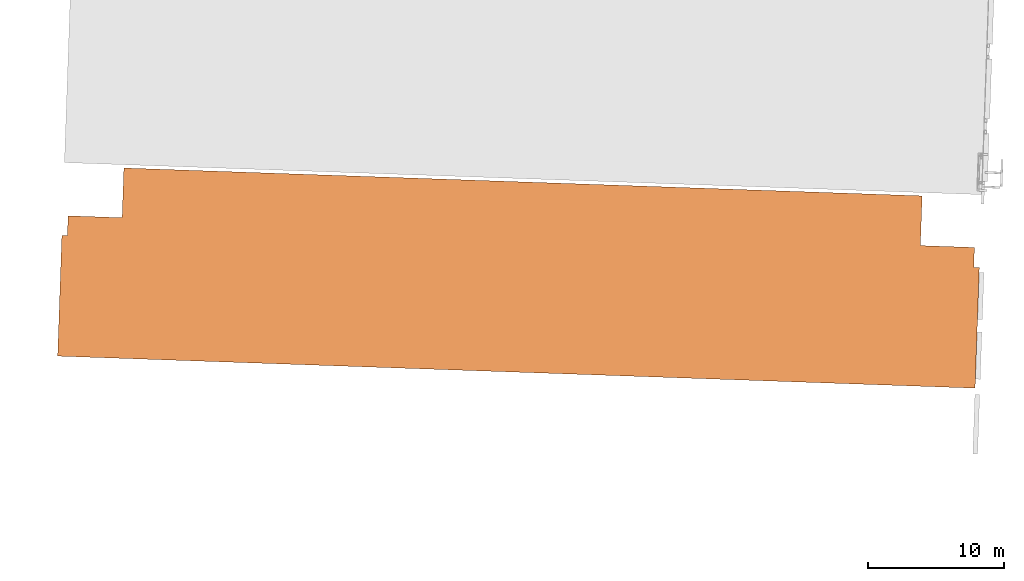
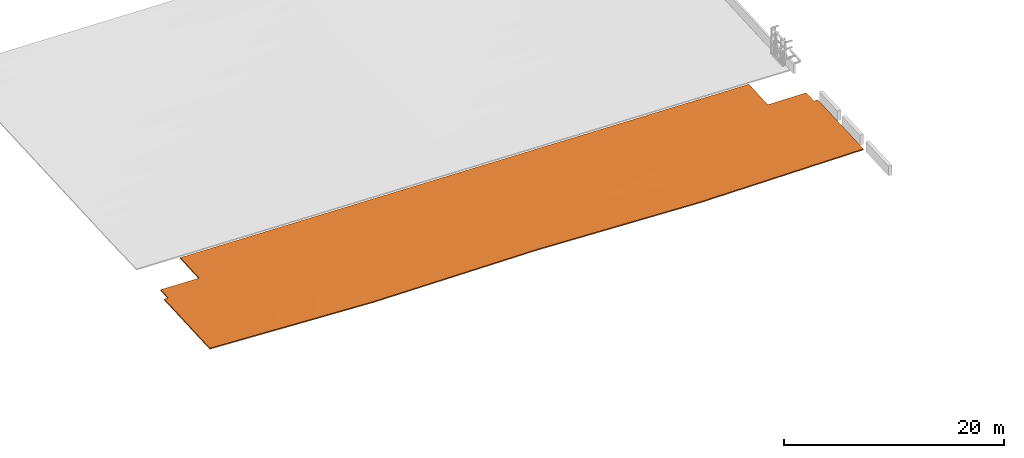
# One storey, part 8 of 8: 1 proxy.
"""IFC2X3 building model written with IfcOpenShell, lengths in feet."""

from ifc_helpers import new_model, entity, si_unit, converted_unit, derived_unit, direction, frame, origin, place, context, subcontext, project, spatial, faceted_brep, source, transform, mapped, material, type_object, type_shapes, element, save


model = new_model("IFC2X3")

# Units and contexts
model_context = context("Model", 3, precision=0.0001, world=origin(), true_north=direction((0.999390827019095, 0.0348994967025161)))
body_context = subcontext(model_context, "Body", "Model", "MODEL_VIEW")
ifc_project = project(units=[converted_unit("LENGTHUNIT", "FOOT", entity("IfcRatioMeasure", 0.3048), si_unit("LENGTHUNIT", "METRE"), dimensions=[1, 0, 0, 0, 0, 0, 0]), converted_unit("AREAUNIT", "SQUARE FOOT", entity("IfcRatioMeasure", 0.09290304), si_unit("AREAUNIT", "SQUARE_METRE"), dimensions=[2, 0, 0, 0, 0, 0, 0]), converted_unit("VOLUMEUNIT", "CUBIC FOOT", entity("IfcRatioMeasure", 0.028316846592), si_unit("VOLUMEUNIT", "CUBIC_METRE"), dimensions=[3, 0, 0, 0, 0, 0, 0]), converted_unit("PLANEANGLEUNIT", "DEGREE", entity("IfcRatioMeasure", 0.0174532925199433), si_unit("PLANEANGLEUNIT", "RADIAN"), dimensions=[0, 0, 0, 0, 0, 0, 0]), si_unit("MASSUNIT", "GRAM", prefix="KILO"), si_unit("TIMEUNIT", "SECOND"), si_unit("FREQUENCYUNIT", "HERTZ"), si_unit("THERMODYNAMICTEMPERATUREUNIT", "DEGREE_CELSIUS"), derived_unit("THERMALTRANSMITTANCEUNIT", [(si_unit("MASSUNIT", "GRAM", prefix="KILO"), 1), (si_unit("THERMODYNAMICTEMPERATUREUNIT", "KELVIN"), -1), (si_unit("TIMEUNIT", "SECOND"), -3)]), derived_unit("VOLUMETRICFLOWRATEUNIT", [(si_unit("LENGTHUNIT", "METRE"), 3), (si_unit("TIMEUNIT", "SECOND"), -1)]), si_unit("ELECTRICCURRENTUNIT", "AMPERE"), si_unit("ELECTRICVOLTAGEUNIT", "VOLT"), si_unit("POWERUNIT", "WATT"), si_unit("FORCEUNIT", "NEWTON"), si_unit("ILLUMINANCEUNIT", "LUX"), si_unit("LUMINOUSFLUXUNIT", "LUMEN"), si_unit("LUMINOUSINTENSITYUNIT", "CANDELA"), derived_unit("USERDEFINED", [(si_unit("MASSUNIT", "GRAM", prefix="KILO"), -1), (si_unit("LENGTHUNIT", "METRE"), -2), (si_unit("TIMEUNIT", "SECOND"), 3), (si_unit("LUMINOUSFLUXUNIT", "LUMEN"), 1)]), derived_unit("LINEARVELOCITYUNIT", [(si_unit("LENGTHUNIT", "METRE"), 1), (si_unit("TIMEUNIT", "SECOND"), -1)]), si_unit("PRESSUREUNIT", "PASCAL"), derived_unit("USERDEFINED", [(si_unit("LENGTHUNIT", "METRE"), -2), (si_unit("MASSUNIT", "GRAM", prefix="KILO"), 1), (si_unit("TIMEUNIT", "SECOND"), -2)])], contexts=[model_context])

# Site, building, storey
site_placement = place(None, frame((892.518771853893, 322.38689265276, 0.00393700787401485), z_axis=(0.0, 0.0, 1.0), x_axis=(0.0348994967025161, 0.999390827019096, 0.0)))
site = spatial("IfcSite", under=ifc_project, at=site_placement, Name="Default", CompositionType="ELEMENT")
building_placement = place(site_placement, origin())
building = spatial("IfcBuilding", under=site, at=building_placement, CompositionType="ELEMENT")
storey_placement = place(building_placement, frame((0.0, 0.0, 607.0)))
storey = spatial("IfcBuildingStorey", under=building, at=storey_placement, Name="Existing Garage - Roof Level", CompositionType="ELEMENT", Elevation=607.0)

# Proxy
ifc_material = material(Name="Conc Slab")
building_element_proxy_type = type_object("IfcBuildingElementProxyType", Name="URMC Exist Garage A15-G18 2nd Floor", PredefinedType="NOTDEFINED", material=ifc_material)
shared_shape = source(origin(), body_context, "Body", "Brep", [
    faceted_brep([(45.7500000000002, -165.0, -0.416666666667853), (45.0, -165.0, -0.416666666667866), (42.0623199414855, -165.0, -0.493046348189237), (37.5, -165.0, -0.611666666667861), (32.9376800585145, -165.0, -0.730286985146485), (30.0, -165.0, -0.806666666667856), (21.6913902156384, -165.0, -1.02269052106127), (13.3827804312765, -165.0, -1.23871437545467), (0.0, -165.0, -1.58666666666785), (0.0, -165.0, -1.17000000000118), (13.3827804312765, -165.0, -0.822047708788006), (21.6913902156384, -165.0, -0.606023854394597), (30.0, -165.0, -0.390000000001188), (37.4999999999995, -165.0, -0.195000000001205), (45.0, -165.0, 0.0), (45.7500000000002, -165.0, 0.0), (29.0, -220.0, -0.416666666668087), (29.0, -220.0, 0.0), (20.6913898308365, -220.0, 0.0), (12.3827796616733, -220.0, 0.0), (0.0, -220.0, 0.0), (0.0, -220.0, -0.416666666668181), (12.3827796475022, -220.0, -0.416666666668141), (20.691389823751, -220.0, -0.416666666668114), (30.0, -208.845032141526, -0.0790988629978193), (16.5370843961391, -203.597118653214, -0.220703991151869), (29.2499999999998, -219.0, -0.00744545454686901), (29.4999999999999, -219.0, -0.00732727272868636), (29.75, -219.0, -0.0072090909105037), (30.0, -219.0, -0.00709090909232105), (30.4212962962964, -219.0, -0.0068917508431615), (30.8425925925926, -219.0, -0.00669259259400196), (30.0, -205.5, -0.102818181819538), (29.0, -219.0, -0.00756363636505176), (29.0, -219.75, -0.00189090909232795), (29.0, -219.5, -0.00378181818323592), (29.0, -219.25, -0.00567272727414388), (20.7948761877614, -191.005404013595, -0.331768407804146), (30.0, -198.690064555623, -0.151106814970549), (10.0378252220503, -178.448943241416, -0.686738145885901), (20.1935517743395, -178.613535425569, -0.485326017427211), (0.0, -209.845032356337, -0.21602385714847), (0.0, -199.690064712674, -0.432047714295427), (9.71466791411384, -192.499997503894, -0.458709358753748), (0.0, -185.309935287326, -0.737952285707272), (7.77446293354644, -204.767549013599, -0.268053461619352), (0.0, -175.154967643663, -0.953976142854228), (30.0, -192.0, -0.198545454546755), (30.0, -181.845032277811, -0.270553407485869), (30.0, -178.5, -0.294272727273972), (33.7916666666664, -211.777777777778, -0.0435653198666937), (33.7916666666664, -213.222222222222, -0.0359119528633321), (31.2638888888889, -219.0, -0.00649343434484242), (31.6851851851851, -219.0, -0.00629427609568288), (32.1064814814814, -219.0, -0.00609511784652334), (32.5277777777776, -219.0, -0.0058959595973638), (32.9490740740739, -219.0, -0.00569680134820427), (33.3703703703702, -219.0, -0.00549764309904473), (33.7916666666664, -219.0, -0.0052984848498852), (33.7916666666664, -217.555555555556, -0.0129518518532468), (33.7916666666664, -216.111111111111, -0.0206052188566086), (33.7916666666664, -214.666666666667, -0.0282585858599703), (38.4839962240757, -175.781774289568, -0.136205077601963), (34.4211543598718, -180.619101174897, -0.196940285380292), (38.1504626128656, -186.798467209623, -0.107505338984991), (45.0, -177.276017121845, 0.0), (34.313381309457, -191.629013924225, -0.143326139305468), (38.1504626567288, -196.459562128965, -0.0762230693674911), (33.7916666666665, -206.0, -0.0741787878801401), (35.0370370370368, -206.0, -0.0659367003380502), (33.7916666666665, -207.444444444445, -0.0665254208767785), (33.7916666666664, -210.333333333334, -0.0512186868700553), (33.7916666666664, -208.888888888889, -0.058872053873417), (45.0, -191.638008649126, 0.0), (43.7546296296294, -206.0, -0.00824208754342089), (45.0, -206.0, 0.0), (42.5092592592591, -206.0, -0.0164841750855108), (41.2638888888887, -206.0, -0.0247262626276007), (36.2824074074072, -206.0, -0.0576946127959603), (37.5277777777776, -206.0, -0.0494525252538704), (38.7731481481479, -206.0, -0.0412104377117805), (40.0185185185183, -206.0, -0.0329683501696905), (45.7500000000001, -206.0, 0.0), (45.7500000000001, -206.0, -0.416666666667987), (45.0, -206.0, -0.416666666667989), (45.0, -191.638008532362, -0.416666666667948), (45.0, -177.276017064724, -0.416666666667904), (33.7916666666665, -207.444444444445, -0.483192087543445), (33.7916666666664, -208.888888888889, -0.475538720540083), (33.7916666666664, -210.333333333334, -0.467885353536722), (33.7916666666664, -211.777777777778, -0.46023198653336), (30.0, -205.499999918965, -0.519484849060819), (33.7916666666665, -206.0, -0.490845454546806), (37.0103240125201, -176.044531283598, -0.582683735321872), (33.8430920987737, -184.011589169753, -0.606475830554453), (30.0, -178.500000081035, -0.710939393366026), (34.7918977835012, -194.653484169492, -0.538980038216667), (30.0, -198.690064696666, -0.567773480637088), (30.0, -192.0, -0.615212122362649), (40.0185185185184, -206.0, -0.449635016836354), (38.773148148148, -206.0, -0.457877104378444), (37.5277777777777, -206.0, -0.466119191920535), (36.2824074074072, -206.0, -0.474361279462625), (39.3958345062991, -196.218239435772, -0.479670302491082), (42.5092592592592, -206.0, -0.433150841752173), (41.2638888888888, -206.0, -0.441392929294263), (38.1504606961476, -186.798464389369, -0.524172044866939), (30.0, -181.845032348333, -0.687220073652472), (30.8425925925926, -219.0, -0.423359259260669), (43.7546296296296, -206.0, -0.424908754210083), (40.93720002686, -179.294944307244, -0.494844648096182), (35.0370370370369, -206.0, -0.482603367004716), (33.7916666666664, -214.666666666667, -0.444925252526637), (33.7916666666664, -216.111111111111, -0.437271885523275), (33.7916666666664, -217.555555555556, -0.429618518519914), (33.7916666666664, -219.0, -0.421965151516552), (33.3703703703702, -219.0, -0.422164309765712), (32.9490740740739, -219.0, -0.422363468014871), (32.5277777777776, -219.0, -0.422562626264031), (32.1064814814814, -219.0, -0.42276178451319), (31.6851851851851, -219.0, -0.42296094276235), (31.2638888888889, -219.0, -0.423160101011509), (33.7916666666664, -213.222222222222, -0.452578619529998), (30.4212962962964, -219.0, -0.423558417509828), (30.0, -219.0, -0.423757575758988), (29.75, -219.0, -0.423875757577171), (29.4999999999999, -219.0, -0.423993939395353), (29.2499999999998, -219.0, -0.424112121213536), (29.0, -219.0, -0.424230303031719), (30.0, -208.845032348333, -0.495765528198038), (0.0, -185.309935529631, -1.15461894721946), (9.71466872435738, -192.499996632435, -0.875376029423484), (0.0, -199.690064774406, -0.848714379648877), (10.0378253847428, -178.44894299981, -1.10340481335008), (29.0, -219.5, -0.420448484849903), (29.0, -219.75, -0.418557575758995), (29.0, -219.25, -0.422339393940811), (16.5370867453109, -203.597117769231, -0.637370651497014), (7.77446308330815, -204.767549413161, -0.684720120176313), (0.0, -209.845032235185, -0.632690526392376), (20.7948767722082, -191.005405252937, -0.748435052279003), (20.1935519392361, -178.613536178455, -0.901992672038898), (0.0, -175.154967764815, -1.37064280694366)], [[[0, 1, 2, 3, 4, 5, 6, 7, 8, 9, 10, 11, 12, 13, 14, 15]], [[16, 17, 18, 19, 20, 21, 22, 23]], [[18, 24, 25]], [[26, 27, 28, 29, 30, 31, 32, 24, 33]], [[18, 17, 34, 35, 36, 33]], [[37, 25, 38]], [[25, 19, 18]], [[39, 37, 40]], [[19, 41, 20]], [[42, 43, 44]], [[45, 43, 42]], [[33, 24, 18]], [[45, 42, 41]], [[25, 24, 32, 38]], [[39, 40, 10]], [[43, 39, 44]], [[39, 9, 46, 44]], [[37, 43, 25]], [[39, 43, 37]], [[37, 38, 47, 48]], [[12, 11, 10, 40]], [[40, 37, 48]], [[40, 48, 49, 12]], [[45, 19, 25]], [[19, 45, 41]], [[43, 45, 25]], [[9, 39, 10]], [[31, 50, 32]], [[51, 50, 31, 52, 53, 54, 55, 56, 57, 58, 59, 60, 61]], [[62, 63, 64]], [[64, 65, 62]], [[63, 12, 49, 48, 47]], [[64, 66, 67]], [[68, 66, 47]], [[66, 63, 47]], [[66, 68, 69]], [[70, 68, 32, 50, 71, 72]], [[14, 13, 62]], [[68, 47, 38, 32]], [[67, 73, 64]], [[14, 62, 65]], [[66, 69, 67]], [[74, 75, 73, 76]], [[77, 76, 67, 69, 78, 79, 80, 81]], [[73, 67, 76]], [[63, 66, 64]], [[13, 63, 62]], [[64, 73, 65]], [[12, 63, 13]], [[82, 15, 14, 65, 73, 75]], [[15, 82, 83, 0]], [[0, 83, 84, 85, 86, 1]], [[87, 88, 89, 90, 91, 92]], [[93, 94, 95]], [[96, 91, 97, 98]], [[99, 100, 101, 102, 103, 104, 105]], [[4, 3, 2, 93]], [[85, 103, 106]], [[94, 98, 107, 95]], [[90, 108, 91]], [[4, 93, 95]], [[84, 109, 104, 85]], [[93, 110, 106]], [[98, 94, 96]], [[96, 103, 102]], [[102, 111, 92, 96]], [[2, 86, 110]], [[104, 103, 85]], [[85, 106, 110]], [[103, 96, 106]], [[96, 92, 91]], [[112, 113, 114, 115, 116, 117, 118, 119, 120, 121, 108, 90, 122]], [[91, 108, 123, 124, 125, 126, 127, 128, 129]], [[85, 110, 86]], [[95, 5, 4]], [[94, 93, 106]], [[96, 94, 106]], [[2, 110, 93]], [[86, 2, 1]], [[130, 131, 132]], [[7, 133, 8]], [[128, 23, 129]], [[133, 131, 130]], [[134, 135, 16, 23, 128, 136]], [[137, 129, 23]], [[138, 139, 132]], [[137, 140, 97]], [[137, 97, 91, 129]], [[23, 22, 137]], [[22, 21, 139]], [[140, 137, 131]], [[141, 107, 140]], [[131, 138, 132]], [[141, 140, 133]], [[133, 130, 142, 8]], [[6, 5, 141, 7]], [[133, 140, 131]], [[140, 107, 98, 97]], [[141, 5, 95, 107]], [[7, 141, 133]], [[138, 131, 137]], [[139, 138, 22]], [[22, 138, 137]], [[84, 83, 82, 75, 74, 76, 77, 81, 80, 79, 78, 69, 68, 92, 111, 102, 101, 100, 99, 105, 104, 109]], [[71, 50, 51, 61, 60, 59, 58, 115, 114, 113, 112, 122, 90, 89, 88, 87, 92, 68, 70, 72]], [[117, 116, 115, 58, 57, 56, 55, 54, 53, 52, 31, 30, 29, 28, 27, 26, 33, 128, 127, 126, 125, 124, 123, 108, 121, 120, 119, 118]], [[134, 136, 128, 33, 36, 35, 34, 17, 16, 135]], [[9, 8, 142, 130, 132, 139, 21, 20, 41, 42, 44, 46]]]),
    faceted_brep([(0.0, -55.0, -1.17000000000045), (0.0, -55.0, -1.58666666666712), (13.3827804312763, -55.0, -1.23871437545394), (21.6913902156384, -55.0, -1.02269052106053), (30.0, -55.0, -0.806666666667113), (37.5000000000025, -55.0, -0.611666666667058), (45.0, -55.0, -0.416666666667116), (45.7500000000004, -55.0, -0.416666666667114), (45.7500000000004, -55.0, 0.0), (45.0, -55.0, 0.0), (42.0623199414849, -55.0, -0.0763796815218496), (37.4999999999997, -55.0, -0.195000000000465), (32.9376800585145, -55.0, -0.313620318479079), (30.0, -55.0, -0.390000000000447), (21.6913902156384, -55.0, -0.60602385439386), (13.3827804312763, -55.0, -0.822047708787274), (0.0, 0.0, 0.0), (12.3827796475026, 0.0, 0.0), (20.6913898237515, 0.0, 0.0), (29.0, 0.0, 0.0), (29.0, 0.0, -0.416666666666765), (20.6913898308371, 0.0, -0.416666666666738), (12.3827796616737, 0.0, -0.416666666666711), (0.0, 0.0, -0.416666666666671), (45.7500000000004, -14.0, -0.416666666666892), (45.0, -42.7239827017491, -0.41666666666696), (45.0, -28.3619913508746, -0.416666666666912), (45.0, -14.0, -0.416666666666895), (45.7500000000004, -14.0, 0.0), (45.0, -14.0, 0.0), (45.0, -28.3619914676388, 0.0), (45.0, -42.7239829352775, 0.0), (33.7916666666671, -12.5555555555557, -0.0665254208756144), (33.7916666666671, -11.1111111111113, -0.0588720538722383), (33.7916666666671, -9.66666666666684, -0.0512186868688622), (33.7916666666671, -8.22222222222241, -0.0435653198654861), (30.0, -14.5000000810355, -0.102818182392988), (33.7916666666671, -14.0, -0.0741787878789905), (37.0103240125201, -43.9554687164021, -0.166017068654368), (33.843092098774, -35.9884108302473, -0.189809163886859), (30.0, -41.499999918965, -0.294272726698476), (34.7918977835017, -25.3465158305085, -0.122313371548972), (30.0, -21.3099353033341, -0.15110681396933), (30.0, -28.0000001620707, -0.198545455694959), (40.0185185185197, -14.0, -0.0329683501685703), (38.7731481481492, -14.0, -0.0412104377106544), (37.5277777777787, -14.0, -0.0494525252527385), (36.2824074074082, -14.0, -0.0576946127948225), (39.3958345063, -23.7817605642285, -0.0630036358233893), (42.5092592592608, -14.0, -0.0164841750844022), (41.2638888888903, -14.0, -0.0247262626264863), (38.1504606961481, -33.2015356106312, -0.107505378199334), (30.0, -38.1549676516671, -0.270553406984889), (30.8425925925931, -1.0, -0.00669259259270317), (43.7546296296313, -14.0, -0.00824208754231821), (40.9372000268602, -40.7050556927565, -0.0781779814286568), (35.0370370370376, -14.0, -0.0659367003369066), (33.7916666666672, -5.33333333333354, -0.0282585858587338), (33.7916666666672, -3.88888888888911, -0.0206052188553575), (33.7916666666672, -2.44444444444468, -0.0129518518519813), (33.7916666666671, -1.0, -0.00529848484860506), (33.3703703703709, -1.0, -0.00549764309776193), (32.9490740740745, -1.0, -0.00569680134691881), (32.5277777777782, -1.0, -0.00589595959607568), (32.1064814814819, -1.0, -0.00609511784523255), (31.6851851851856, -1.0, -0.00629427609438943), (31.2638888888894, -1.0, -0.0064934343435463), (33.7916666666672, -6.77777777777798, -0.0359119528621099), (30.4212962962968, -1.0, -0.00689175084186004), (30.0, -1.0, -0.00709090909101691), (29.7500000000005, -1.0, -0.0072090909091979), (29.5000000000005, -1.0, -0.00732727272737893), (29.2500000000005, -1.0, -0.00744545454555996), (29.0, -1.0, -0.00756363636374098), (30.0, -11.1549676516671, -0.0790988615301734), (0.0, -34.6900644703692, -0.737952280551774), (9.71466872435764, -27.5000033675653, -0.458709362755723), (0.0, -20.3099352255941, -0.432047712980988), (10.0378253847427, -41.5510570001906, -0.686738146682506), (29.0, -0.50000000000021, -0.00378181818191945), (29.0, -0.250000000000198, -0.00189090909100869), (29.0, -0.750000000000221, -0.00567272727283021), (16.5370867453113, -16.4028822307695, -0.220703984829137), (7.77446308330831, -15.2324505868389, -0.268053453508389), (0.0, -10.1549677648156, -0.216023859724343), (20.7948767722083, -28.9945947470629, -0.331768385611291), (20.1935519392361, -41.3864638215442, -0.485326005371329), (0.0, -44.8450322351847, -0.953976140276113), (0.0, -10.1549676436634, -0.632690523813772), (0.0, -20.3099352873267, -0.848714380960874), (0.0, -34.6900647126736, -1.15461895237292), (0.0, -44.8450323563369, -1.37064280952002), (30.0, -11.1549678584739, -0.495765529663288), (16.5370843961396, -16.4028813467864, -0.637370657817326), (29.2500000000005, -1.0, -0.424112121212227), (29.5000000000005, -1.0, -0.423993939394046), (29.7500000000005, -1.0, -0.423875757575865), (30.0, -1.0, -0.423757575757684), (30.4212962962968, -1.0, -0.423558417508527), (30.8425925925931, -1.0, -0.42335925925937), (30.0, -14.5000000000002, -0.519484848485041), (29.0, -1.0, -0.424230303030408), (29.0, -0.250000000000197, -0.418557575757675), (29.0, -0.500000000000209, -0.420448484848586), (29.0, -0.750000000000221, -0.422339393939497), (20.7948761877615, -28.9945959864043, -0.748435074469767), (30.0, -21.3099354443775, -0.567773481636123), (10.0378252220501, -41.5510567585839, -1.10340481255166), (20.1935517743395, -41.3864645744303, -0.901992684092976), (9.7146679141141, -27.5000024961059, -0.87537602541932), (7.77446293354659, -15.2324509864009, -0.684720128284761), (30.0, -28.0, -0.615212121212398), (30.0, -38.1549677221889, -0.687220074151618), (30.0, -41.5000000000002, -0.710939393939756), (33.7916666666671, -8.22222222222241, -0.460231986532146), (33.7916666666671, -6.77777777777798, -0.452578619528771), (31.2638888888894, -1.0, -0.423160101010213), (31.6851851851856, -1.0, -0.422960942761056), (32.1064814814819, -1.0, -0.422761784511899), (32.5277777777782, -1.0, -0.422562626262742), (32.9490740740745, -1.0, -0.422363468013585), (33.3703703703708, -1.0, -0.422164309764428), (33.7916666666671, -1.0, -0.421965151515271), (33.7916666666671, -2.44444444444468, -0.429618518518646), (33.7916666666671, -3.88888888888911, -0.437271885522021), (33.7916666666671, -5.33333333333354, -0.444925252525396), (38.4839962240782, -44.2182257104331, -0.552871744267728), (34.4211543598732, -39.3808988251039, -0.613606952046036), (38.1504626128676, -33.2015327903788, -0.524172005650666), (34.3133813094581, -28.3709860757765, -0.559992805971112), (38.1504626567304, -23.5404378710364, -0.492889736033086), (33.7916666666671, -14.0, -0.490845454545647), (35.0370370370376, -14.0, -0.48260336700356), (33.7916666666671, -12.5555555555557, -0.483192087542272), (33.7916666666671, -9.66666666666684, -0.467885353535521), (33.7916666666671, -11.1111111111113, -0.475538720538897), (43.754629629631, -14.0, -0.424908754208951), (42.5092592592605, -14.0, -0.433150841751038), (41.2638888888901, -14.0, -0.441392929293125), (36.2824074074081, -14.0, -0.474361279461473), (37.5277777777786, -14.0, -0.466119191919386), (38.7731481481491, -14.0, -0.457877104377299), (40.0185185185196, -14.0, -0.449635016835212)], [[[0, 1, 2, 3, 4, 5, 6, 7, 8, 9, 10, 11, 12, 13, 14, 15]], [[16, 17, 18, 19, 20, 21, 22, 23]], [[24, 7, 6, 25, 26, 27]], [[7, 24, 28, 8]], [[8, 28, 29, 30, 31, 9]], [[32, 33, 34, 35, 36, 37]], [[38, 39, 40]], [[41, 36, 42, 43]], [[44, 45, 46, 47, 48, 49, 50]], [[12, 11, 10, 38]], [[30, 48, 51]], [[39, 43, 52, 40]], [[35, 53, 36]], [[12, 38, 40]], [[29, 54, 49, 30]], [[38, 55, 51]], [[43, 39, 41]], [[41, 48, 47]], [[47, 56, 37, 41]], [[10, 31, 55]], [[49, 48, 30]], [[30, 51, 55]], [[48, 41, 51]], [[41, 37, 36]], [[57, 58, 59, 60, 61, 62, 63, 64, 65, 66, 53, 35, 67]], [[36, 53, 68, 69, 70, 71, 72, 73, 74]], [[30, 55, 31]], [[40, 13, 12]], [[39, 38, 51]], [[41, 39, 51]], [[10, 55, 38]], [[31, 10, 9]], [[75, 76, 77]], [[15, 78, 0]], [[73, 18, 74]], [[78, 76, 75]], [[79, 80, 19, 18, 73, 81]], [[82, 74, 18]], [[83, 84, 77]], [[82, 85, 42]], [[82, 42, 36, 74]], [[18, 17, 82]], [[17, 16, 84]], [[85, 82, 76]], [[86, 52, 85]], [[76, 83, 77]], [[86, 85, 78]], [[78, 75, 87, 0]], [[14, 13, 86, 15]], [[78, 85, 76]], [[85, 52, 43, 42]], [[86, 13, 40, 52]], [[15, 86, 78]], [[83, 76, 82]], [[84, 83, 17]], [[17, 83, 82]], [[23, 88, 89, 90, 91, 1, 0, 87, 75, 77, 84, 16]], [[21, 92, 93]], [[94, 95, 96, 97, 98, 99, 100, 92, 101]], [[21, 20, 102, 103, 104, 101]], [[105, 93, 106]], [[93, 22, 21]], [[107, 105, 108]], [[22, 88, 23]], [[89, 109, 90]], [[110, 109, 89]], [[101, 92, 21]], [[110, 89, 88]], [[93, 92, 100, 106]], [[107, 108, 2]], [[109, 107, 90]], [[107, 1, 91, 90]], [[105, 109, 93]], [[107, 109, 105]], [[105, 106, 111, 112]], [[4, 3, 2, 108]], [[108, 105, 112]], [[108, 112, 113, 4]], [[110, 22, 93]], [[22, 110, 88]], [[109, 110, 93]], [[1, 107, 2]], [[99, 114, 100]], [[115, 114, 99, 116, 117, 118, 119, 120, 121, 122, 123, 124, 125]], [[126, 127, 128]], [[128, 25, 126]], [[127, 4, 113, 112, 111]], [[128, 129, 130]], [[131, 129, 111]], [[129, 127, 111]], [[129, 131, 132]], [[133, 131, 100, 114, 134, 135]], [[6, 5, 126]], [[131, 111, 106, 100]], [[130, 26, 128]], [[6, 126, 25]], [[129, 132, 130]], [[136, 27, 26, 137]], [[138, 137, 130, 132, 139, 140, 141, 142]], [[26, 130, 137]], [[127, 129, 128]], [[5, 127, 126]], [[128, 26, 25]], [[4, 127, 5]], [[44, 50, 49, 54, 29, 28, 24, 27, 136, 137, 138, 142, 141, 140, 139, 132, 131, 37, 56, 47, 46, 45]], [[59, 58, 57, 67, 35, 34, 33, 32, 37, 131, 133, 135, 134, 114, 115, 125, 124, 123, 122, 60]], [[102, 20, 19, 80, 79, 81, 73, 101, 104, 103]], [[53, 66, 65, 64, 63, 62, 61, 60, 122, 121, 120, 119, 118, 117, 116, 99, 98, 97, 96, 95, 94, 101, 73, 72, 71, 70, 69, 68]]]),
    faceted_brep([(29.0, -220.0, 0.0), (0.0, -220.0, 0.0), (0.0, -220.333333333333, 0.0), (29.0, -220.333333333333, 0.0), (29.0, -220.0, -0.416666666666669), (29.0, -220.333333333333, -0.416666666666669), (0.0, -220.333333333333, -0.416666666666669), (0.0, -220.0, -0.416666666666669)], [[[0, 1, 2, 3]], [[4, 5, 6, 7]], [[0, 3, 5, 4]], [[3, 2, 6, 5]], [[2, 1, 7, 6]], [[1, 0, 4, 7]]]),
    faceted_brep([(0.0, -165.0, -1.17000000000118), (0.0, -165.0, -1.58666666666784), (9.46064134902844, -165.0, -1.34068999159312), (18.9212826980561, -165.0, -1.0947133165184), (30.0, -165.0, -0.806666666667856), (37.1659738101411, -165.0, -0.620351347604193), (41.0829869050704, -165.0, -0.51850900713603), (45.0, -165.0, -0.416666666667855), (45.7500000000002, -165.0, -0.416666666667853), (45.7500000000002, -165.0, 0.0), (45.0, -165.0, 0.0), (37.8340261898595, -165.0, -0.186315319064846), (33.9170130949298, -165.0, -0.288157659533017), (30.0, -165.0, -0.390000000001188), (20.5393586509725, -165.0, -0.635976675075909), (11.0787173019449, -165.0, -0.881953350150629), (30.0, -110.0, -0.526666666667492), (18.921282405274, -110.0, -0.607910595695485), (9.46064120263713, -110.0, -0.677288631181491), (0.0, -110.0, -0.746666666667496), (0.0, -110.0, -0.330000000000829), (11.0787175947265, -110.0, -0.248756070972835), (20.5393587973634, -110.0, -0.17937803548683), (30.0, -110.0, -0.110000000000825), (37.16597356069, -110.0, -0.0574495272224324), (41.0829867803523, -110.0, -0.0287247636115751), (45.0, -110.0, 0.0), (45.7500000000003, -110.0, 0.0), (45.7500000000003, -110.0, -0.41666666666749), (45.0, -110.0, -0.41666666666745), (37.8340264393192, -110.0, -0.469217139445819), (33.9170132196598, -110.0, -0.497941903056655), (0.0, -137.5, -1.16666666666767), (30.0, -130.310981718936, -0.630068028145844), (15.0000015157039, -137.500002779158, -0.916666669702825), (30.0, -144.689018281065, -0.703265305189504), (30.0, -136.275236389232, -0.660431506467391), (30.0, -150.637618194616, -0.733549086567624), (35.238920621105, -129.41370506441, -0.552562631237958), (40.1294691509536, -126.164082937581, -0.479103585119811), (45.0, -124.36238162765, -0.416666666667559), (45.0, -138.724762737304, -0.416666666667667), (39.1244807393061, -144.011721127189, -0.527577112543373), (33.9855774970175, -149.287335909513, -0.644304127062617), (45.0, -136.275236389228, 0.0), (45.0, -150.637618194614, 0.0), (39.7610793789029, -129.413705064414, -0.0729374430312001), (34.8705308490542, -126.164082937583, -0.129852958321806), (30.0, -124.362381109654, -0.18311757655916), (30.0, -137.5, -0.250000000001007), (30.0, -138.724762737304, -0.256235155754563), (35.8755192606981, -144.011721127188, -0.172240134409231), (41.0144225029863, -149.287335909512, -0.0823707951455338), (0.0, -130.310981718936, -0.640204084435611), (14.9999984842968, -137.500002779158, -0.500000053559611), (0.0, -144.689018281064, -0.859795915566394)], [[[0, 1, 2, 3, 4, 5, 6, 7, 8, 9, 10, 11, 12, 13, 14, 15]], [[16, 17, 18, 19, 20, 21, 22, 23, 24, 25, 26, 27, 28, 29, 30, 31]], [[2, 1, 32]], [[17, 16, 33]], [[34, 35, 3]], [[34, 17, 33]], [[34, 33, 36, 35]], [[32, 18, 34]], [[3, 35, 37, 4]], [[2, 32, 34]], [[34, 3, 2]], [[34, 18, 17]], [[32, 19, 18]], [[38, 16, 31, 30]], [[39, 29, 40, 41]], [[5, 42, 6]], [[5, 43, 42]], [[43, 4, 37, 35, 36]], [[38, 39, 42]], [[41, 6, 42]], [[41, 7, 6]], [[42, 43, 38]], [[4, 43, 5]], [[38, 43, 36]], [[39, 38, 30]], [[29, 39, 30]], [[41, 42, 39]], [[38, 36, 33, 16]], [[8, 7, 41, 40, 29, 28]], [[8, 28, 27, 9]], [[9, 27, 26, 44, 45, 10]], [[46, 26, 25, 24]], [[47, 23, 48, 49, 50]], [[11, 51, 12]], [[11, 52, 51]], [[52, 10, 45, 44]], [[46, 47, 51]], [[50, 12, 51]], [[50, 49, 14, 13, 12]], [[51, 52, 46]], [[10, 52, 11]], [[46, 52, 44]], [[47, 46, 24]], [[23, 47, 24]], [[50, 51, 47]], [[26, 46, 44]], [[21, 20, 53]], [[54, 55, 15]], [[54, 21, 53]], [[55, 54, 53]], [[49, 22, 54]], [[55, 0, 15]], [[14, 49, 54]], [[54, 15, 14]], [[54, 22, 21]], [[22, 49, 48, 23]], [[19, 32, 1, 0, 55, 53, 20]]]),
    faceted_brep([(29.0, 0.0, 0.0), (29.0, 0.3333333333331, 0.0), (0.0, 0.333333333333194, 0.0), (0.0, 0.0, 0.0), (29.0, 0.0, -0.416666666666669), (0.0, 0.0, -0.416666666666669), (0.0, 0.333333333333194, -0.416666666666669), (29.0, 0.3333333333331, -0.416666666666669)], [[[0, 1, 2, 3]], [[4, 5, 6, 7]], [[1, 0, 4, 7]], [[2, 1, 7, 6]], [[3, 2, 6, 5]], [[0, 3, 5, 4]]]),
    faceted_brep([(30.0, -55.0, -0.806666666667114), (20.5393586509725, -55.0, -1.05264334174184), (11.0787173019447, -55.0, -1.29862001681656), (0.0, -55.0, -1.58666666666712), (0.0, -55.0, -1.17000000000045), (9.46064134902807, -55.0, -0.924023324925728), (18.9212826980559, -55.0, -0.678046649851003), (30.0, -55.0, -0.390000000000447), (37.1659738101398, -55.0, -0.203684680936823), (41.0829869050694, -55.0, -0.101842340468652), (45.0, -55.0, 0.0), (45.7500000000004, -55.0, 0.0), (45.7500000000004, -55.0, -0.416666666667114), (45.0, -55.0, -0.416666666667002), (37.8340261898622, -55.0, -0.602981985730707), (33.9170130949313, -55.0, -0.70482432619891), (0.0, -110.0, -0.330000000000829), (0.0, -110.0, -0.746666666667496), (11.0787175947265, -110.0, -0.665422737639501), (20.5393587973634, -110.0, -0.596044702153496), (30.0, -110.0, -0.526666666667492), (37.1659735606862, -110.0, -0.474116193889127), (41.082986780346, -110.0, -0.445391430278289), (45.0, -110.0, -0.416666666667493), (45.7500000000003, -110.0, -0.41666666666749), (45.7500000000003, -110.0, 0.0), (45.0, -110.0, 0.0), (37.8340264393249, -110.0, -0.0525504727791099), (33.9170132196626, -110.0, -0.0812752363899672), (30.0, -110.0, -0.110000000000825), (18.921282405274, -110.0, -0.191243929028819), (9.46064120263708, -110.0, -0.260621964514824), (45.0, -81.2752372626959, 0.0), (45.0, -95.6376188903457, 0.0), (45.0, -83.7247636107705, -0.416666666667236), (45.0, -69.3623818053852, -0.416666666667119), (39.7610793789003, -90.5862949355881, -0.4896041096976), (34.8705308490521, -93.835917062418, -0.546519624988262), (30.0, -95.6376183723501, -0.599784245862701), (30.0, -82.5, -0.666666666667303), (30.0, -81.2752372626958, -0.672901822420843), (35.875519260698, -75.9882788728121, -0.588906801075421), (41.0144225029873, -70.7126640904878, -0.499037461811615), (0.0, -89.6890182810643, -1.05687075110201), (14.9999984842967, -82.4999972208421, -0.916666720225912), (0.0, -75.3109817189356, -1.2764625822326), (0.0, -82.4999999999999, -0.750000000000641), (30.0, -89.6890182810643, -0.213401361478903), (15.0000015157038, -82.4999972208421, -0.500000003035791), (30.0, -75.3109817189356, -0.286598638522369), (30.0, -83.724763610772, -0.24376483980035), (30.0, -69.362381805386, -0.316882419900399), (35.2389206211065, -90.5862949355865, -0.135895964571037), (40.1294691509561, -93.8359170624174, -0.0624369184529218), (39.1244807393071, -75.9882788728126, -0.110910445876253), (33.9855774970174, -70.7126640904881, -0.227637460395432)], [[[0, 1, 2, 3, 4, 5, 6, 7, 8, 9, 10, 11, 12, 13, 14, 15]], [[16, 17, 18, 19, 20, 21, 22, 23, 24, 25, 26, 27, 28, 29, 30, 31]], [[25, 11, 10, 32, 33, 26]], [[11, 25, 24, 12]], [[12, 24, 23, 34, 35, 13]], [[36, 23, 22, 21]], [[37, 20, 38, 39, 40]], [[14, 41, 15]], [[14, 42, 41]], [[42, 13, 35, 34]], [[36, 37, 41]], [[40, 15, 41]], [[40, 39, 1, 0, 15]], [[41, 42, 36]], [[13, 42, 14]], [[36, 42, 34]], [[37, 36, 21]], [[20, 37, 21]], [[40, 41, 37]], [[23, 36, 34]], [[18, 17, 43]], [[44, 45, 2]], [[44, 18, 43]], [[45, 44, 43]], [[39, 19, 44]], [[45, 3, 2]], [[1, 39, 44]], [[44, 2, 1]], [[44, 19, 18]], [[19, 39, 38, 20]], [[4, 3, 45, 43, 17, 16, 46]], [[5, 4, 46]], [[30, 29, 47]], [[48, 49, 6]], [[48, 30, 47]], [[48, 47, 50, 49]], [[46, 31, 48]], [[6, 49, 51, 7]], [[5, 46, 48]], [[48, 6, 5]], [[48, 31, 30]], [[46, 16, 31]], [[52, 29, 28, 27]], [[53, 26, 33, 32]], [[8, 54, 9]], [[8, 55, 54]], [[55, 7, 51, 49, 50]], [[52, 53, 54]], [[32, 9, 54]], [[32, 10, 9]], [[54, 55, 52]], [[7, 55, 8]], [[52, 55, 50]], [[53, 52, 27]], [[26, 53, 27]], [[32, 54, 53]], [[52, 50, 47, 29]]]),
])
type_shapes(building_element_proxy_type, [shared_shape])
proxy_placement = place(storey_placement, frame((57.9272542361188, 456.76395347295, 0.0)))
element("IfcBuildingElementProxy", 1, at=proxy_placement, inside=storey, type_object=building_element_proxy_type, material=ifc_material, Name="URMC Exist Garage A15-G18 2nd Floor:URMC Exist Garage A15-G18 2nd Floor", ObjectType="URMC Exist Garage A15-G18 2nd Floor", context=body_context, shape_type="MappedRepresentation", body=[
    mapped(shared_shape, transform((0.0, 0.0, 0.0), scale=1.0)),
])

save(model, "model.ifc")
